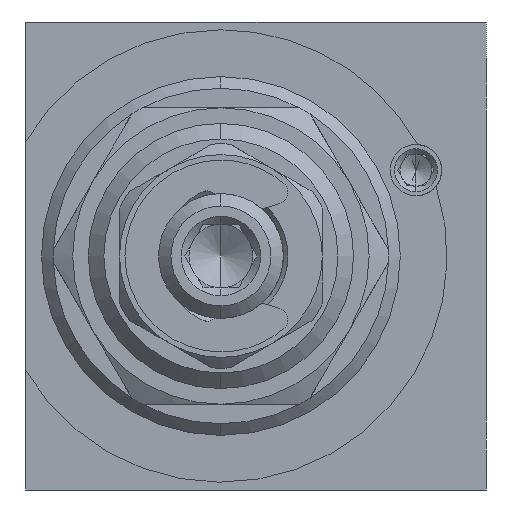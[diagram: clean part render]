
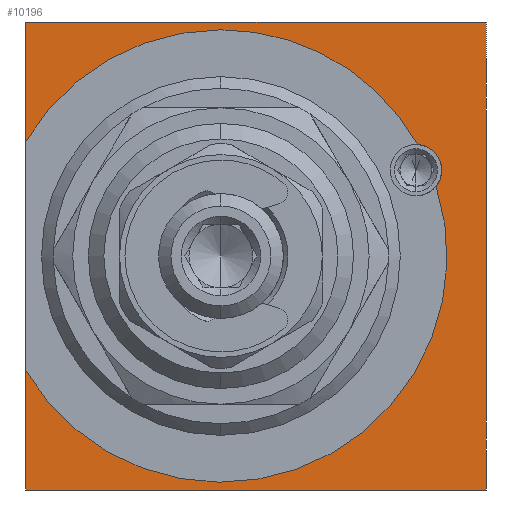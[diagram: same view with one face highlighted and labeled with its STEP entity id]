
A CAD part, left-side view. The second image highlights one B-rep face of the part: STEP entity #10196.
In plain terms, the highlighted planar face has unit normal (-1, 0, 0).
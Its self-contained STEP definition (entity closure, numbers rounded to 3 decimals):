
#435 = CIRCLE ( 'NONE', #13590, 14.5 ) ;
#484 = EDGE_CURVE ( 'NONE', #21828, #21033, #5533, .T. ) ;
#898 = CARTESIAN_POINT ( 'NONE',  ( 0., -14.75, 15. ) ) ;
#1718 = DIRECTION ( 'NONE',  ( 0., 0., 1. ) ) ;
#2391 = CARTESIAN_POINT ( 'NONE',  ( 0., 2.25, 0. ) ) ;
#2462 = VERTEX_POINT ( 'NONE', #17152 ) ;
#3635 = VERTEX_POINT ( 'NONE', #19343 ) ;
#3776 = EDGE_CURVE ( 'NONE', #2462, #4868, #15485, .T. ) ;
#4068 = LINE ( 'NONE', #12766, #13198 ) ;
#4256 = DIRECTION ( 'NONE',  ( 0., 0., 1. ) ) ;
#4556 = EDGE_CURVE ( 'NONE', #10287, #7322, #11369, .T. ) ;
#4868 = VERTEX_POINT ( 'NONE', #11691 ) ;
#4909 = CARTESIAN_POINT ( 'NONE',  ( 0., 2.25, 0. ) ) ;
#5443 = CARTESIAN_POINT ( 'NONE',  ( 0., 14.75, -15. ) ) ;
#5533 = LINE ( 'NONE', #898, #10411 ) ;
#5703 = ORIENTED_EDGE ( 'NONE', *, *, #20391, .T. ) ;
#5928 = VECTOR ( 'NONE', #22726, 1000. ) ;
#6730 = DIRECTION ( 'NONE',  ( 0., 0., 1. ) ) ;
#6989 = AXIS2_PLACEMENT_3D ( 'NONE', #23578, #12686, #1718 ) ;
#7322 = VERTEX_POINT ( 'NONE', #5443 ) ;
#7416 = DIRECTION ( 'NONE',  ( 0., -1., 0. ) ) ;
#8110 = CARTESIAN_POINT ( 'NONE',  ( 0., 14.75, 15. ) ) ;
#8721 = CARTESIAN_POINT ( 'NONE',  ( 0., 2.25, 0. ) ) ;
#9177 = ORIENTED_EDGE ( 'NONE', *, *, #484, .F. ) ;
#9202 = CARTESIAN_POINT ( 'NONE',  ( 0., 14.75, -15. ) ) ;
#10119 = AXIS2_PLACEMENT_3D ( 'NONE', #9202, #21893, #11023 ) ;
#10176 = EDGE_LOOP ( 'NONE', ( #14859, #19131, #17418, #20531, #14572, #9177, #17110, #20819, #5703 ) ) ;
#10196 = ADVANCED_FACE ( 'NONE', ( #19817 ), #19980, .T. ) ;
#10287 = VERTEX_POINT ( 'NONE', #22136 ) ;
#10335 = AXIS2_PLACEMENT_3D ( 'NONE', #4909, #17627, #6730 ) ;
#10411 = VECTOR ( 'NONE', #7416, 1000. ) ;
#10536 = DIRECTION ( 'NONE',  ( 0., 0., 1. ) ) ;
#11023 = DIRECTION ( 'NONE',  ( 0., 0., 1. ) ) ;
#11369 = LINE ( 'NONE', #19059, #5928 ) ;
#11426 = CARTESIAN_POINT ( 'NONE',  ( 0., -14.75, 15. ) ) ;
#11691 = CARTESIAN_POINT ( 'NONE',  ( 0., -10.367, 7.146 ) ) ;
#12390 = CIRCLE ( 'NONE', #10335, 14.5 ) ;
#12529 = EDGE_CURVE ( 'NONE', #21033, #10287, #17363, .T. ) ;
#12686 = DIRECTION ( 'NONE',  ( -1., 0., 0. ) ) ;
#12766 = CARTESIAN_POINT ( 'NONE',  ( 0., 14.75, 15. ) ) ;
#13198 = VECTOR ( 'NONE', #14570, 1000. ) ;
#13574 = VERTEX_POINT ( 'NONE', #13982 ) ;
#13590 = AXIS2_PLACEMENT_3D ( 'NONE', #2391, #15164, #4256 ) ;
#13671 = AXIS2_PLACEMENT_3D ( 'NONE', #8721, #21419, #10536 ) ;
#13982 = CARTESIAN_POINT ( 'NONE',  ( 0., 14.75, 7.348 ) ) ;
#14122 = VECTOR ( 'NONE', #16945, 1000. ) ;
#14570 = DIRECTION ( 'NONE',  ( 0., 0., 1. ) ) ;
#14572 = ORIENTED_EDGE ( 'NONE', *, *, #12529, .F. ) ;
#14859 = ORIENTED_EDGE ( 'NONE', *, *, #3776, .F. ) ;
#15164 = DIRECTION ( 'NONE',  ( 1., 0., 0. ) ) ;
#15485 = CIRCLE ( 'NONE', #6989, 1.65 ) ;
#16301 = EDGE_CURVE ( 'NONE', #7322, #20466, #4068, .T. ) ;
#16945 = DIRECTION ( 'NONE',  ( 0., 0., 1. ) ) ;
#17110 = ORIENTED_EDGE ( 'NONE', *, *, #18589, .F. ) ;
#17152 = CARTESIAN_POINT ( 'NONE',  ( 0., -11.542, 4.474 ) ) ;
#17363 = LINE ( 'NONE', #11426, #21622 ) ;
#17418 = ORIENTED_EDGE ( 'NONE', *, *, #16301, .F. ) ;
#17627 = DIRECTION ( 'NONE',  ( 1., 0., 0. ) ) ;
#18061 = CARTESIAN_POINT ( 'NONE',  ( 0., -14.75, 15. ) ) ;
#18106 = EDGE_CURVE ( 'NONE', #2462, #20466, #435, .T. ) ;
#18547 = DIRECTION ( 'NONE',  ( 0., 0., -1. ) ) ;
#18589 = EDGE_CURVE ( 'NONE', #13574, #21828, #19503, .T. ) ;
#19059 = CARTESIAN_POINT ( 'NONE',  ( 0., -14.75, -15. ) ) ;
#19131 = ORIENTED_EDGE ( 'NONE', *, *, #18106, .T. ) ;
#19343 = CARTESIAN_POINT ( 'NONE',  ( 0., 2.25, 14.5 ) ) ;
#19503 = LINE ( 'NONE', #22360, #14122 ) ;
#19615 = CARTESIAN_POINT ( 'NONE',  ( 0., 14.75, -7.348 ) ) ;
#19817 = FACE_OUTER_BOUND ( 'NONE', #10176, .T. ) ;
#19980 = PLANE ( 'NONE',  #10119 ) ;
#20391 = EDGE_CURVE ( 'NONE', #3635, #4868, #12390, .T. ) ;
#20466 = VERTEX_POINT ( 'NONE', #19615 ) ;
#20531 = ORIENTED_EDGE ( 'NONE', *, *, #4556, .F. ) ;
#20819 = ORIENTED_EDGE ( 'NONE', *, *, #23605, .T. ) ;
#21033 = VERTEX_POINT ( 'NONE', #18061 ) ;
#21419 = DIRECTION ( 'NONE',  ( 1., 0., 0. ) ) ;
#21622 = VECTOR ( 'NONE', #18547, 1000. ) ;
#21828 = VERTEX_POINT ( 'NONE', #8110 ) ;
#21893 = DIRECTION ( 'NONE',  ( -1., 0., 0. ) ) ;
#22136 = CARTESIAN_POINT ( 'NONE',  ( 0., -14.75, -15. ) ) ;
#22360 = CARTESIAN_POINT ( 'NONE',  ( 0., 14.75, 15. ) ) ;
#22726 = DIRECTION ( 'NONE',  ( 0., 1., 0. ) ) ;
#23578 = CARTESIAN_POINT ( 'NONE',  ( 0., -10.25, 5.5 ) ) ;
#23605 = EDGE_CURVE ( 'NONE', #13574, #3635, #23606, .T. ) ;
#23606 = CIRCLE ( 'NONE', #13671, 14.5 ) ;
